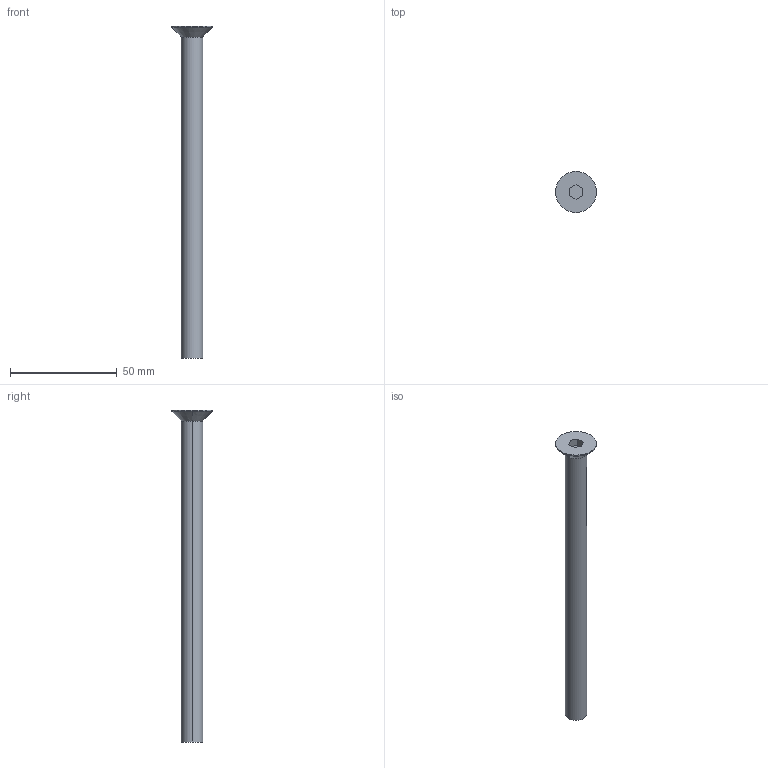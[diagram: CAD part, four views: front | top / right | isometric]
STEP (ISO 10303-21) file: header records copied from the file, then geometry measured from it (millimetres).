
FILE_DESCRIPTION (( 'STEP AP214' ), '1' );
FILE_NAME ('COUNTERSHUNK_HEAD_BOLT_M10(L=150).STEP', '2021-09-18T10:25:51', ( '' ), ( '' ), 'SwSTEP 2.0', 'SolidWorks 2018', '' );
FILE_SCHEMA (( 'AUTOMOTIVE_DESIGN' ));
Length unit declared in the file: millimetre
Products named in the file (1): COUNTERSHUNK_HEAD_BOLT_M10(L=150)
Bounding box: 19.22 x 19.22 x 155.22 mm (x, y, z)
Volume: 12644.2 mm3; surface area: 5492 mm2
Topology: 1 solids, 1 shells, 15 faces, 32 edges, 20 vertices
Faces by surface type: plane 9, cylinder 4, cone 2
Entity records: 436 total; most frequent: DIRECTION 72, CARTESIAN_POINT 68, ORIENTED_EDGE 64, EDGE_CURVE 32, VECTOR 24, LINE 24, AXIS2_PLACEMENT_3D 24, VERTEX_POINT 20
